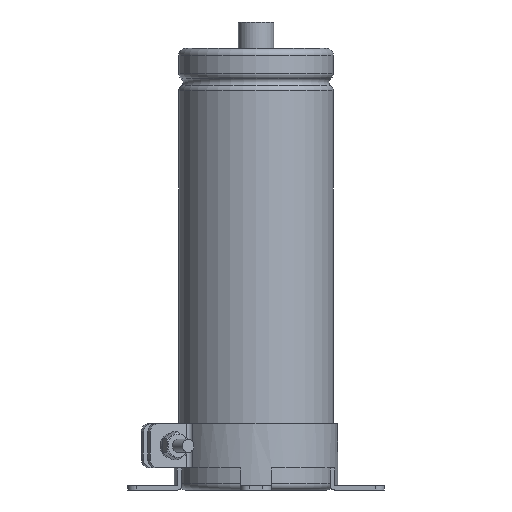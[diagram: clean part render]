
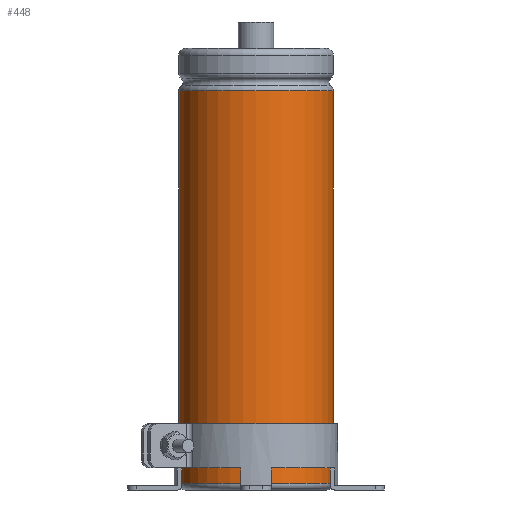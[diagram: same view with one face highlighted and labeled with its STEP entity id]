
A CAD part, front view. The second image highlights one B-rep face of the part: STEP entity #448.
In plain terms, the highlighted cylindrical face has radius 17.5 mm (diameter 35 mm), a partial arc.
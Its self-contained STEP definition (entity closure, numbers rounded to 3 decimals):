
#448=ADVANCED_FACE('',(#662),#578,.T.);
#578=CYLINDRICAL_SURFACE('',#3132,17.5);
#662=FACE_OUTER_BOUND('',#806,.T.);
#806=EDGE_LOOP('',(#1691,#1692,#1693,#1694));
#1059=LINE('',#4861,#1243);
#1060=LINE('',#4865,#1244);
#1243=VECTOR('',#3749,1.);
#1244=VECTOR('',#3752,1.);
#1691=ORIENTED_EDGE('',*,*,#2582,.T.);
#1692=ORIENTED_EDGE('',*,*,#2583,.T.);
#1693=ORIENTED_EDGE('',*,*,#2584,.F.);
#1694=ORIENTED_EDGE('',*,*,#2585,.F.);
#2240=VERTEX_POINT('',#4854);
#2242=VERTEX_POINT('',#4858);
#2243=VERTEX_POINT('',#4862);
#2244=VERTEX_POINT('',#4864);
#2582=EDGE_CURVE('',#2240,#2242,#2864,.T.);
#2583=EDGE_CURVE('',#2242,#2243,#1059,.T.);
#2584=EDGE_CURVE('',#2244,#2243,#2865,.T.);
#2585=EDGE_CURVE('',#2240,#2244,#1060,.T.);
#2864=CIRCLE('',#3129,17.5);
#2865=CIRCLE('',#3131,17.5);
#3129=AXIS2_PLACEMENT_3D('',#4859,#3745,#3746);
#3131=AXIS2_PLACEMENT_3D('',#4863,#3750,#3751);
#3132=AXIS2_PLACEMENT_3D('',#4866,#3753,#3754);
#3745=DIRECTION('',(0.,0.,-1.));
#3746=DIRECTION('',(0.,1.,0.));
#3749=DIRECTION('',(0.,0.,-1.));
#3750=DIRECTION('',(0.,0.,-1.));
#3751=DIRECTION('',(0.,1.,0.));
#3752=DIRECTION('',(0.,0.,-1.));
#3753=DIRECTION('',(0.,0.,-1.));
#3754=DIRECTION('',(0.,1.,0.));
#4854=CARTESIAN_POINT('',(3.937,17.051,90.4));
#4858=CARTESIAN_POINT('',(-3.937,17.051,90.4));
#4859=CARTESIAN_POINT('',(0.,0.,90.4));
#4861=CARTESIAN_POINT('',(-3.937,17.051,90.4));
#4862=CARTESIAN_POINT('',(-3.937,17.051,1.5));
#4863=CARTESIAN_POINT('',(0.,0.,1.5));
#4864=CARTESIAN_POINT('',(3.937,17.051,1.5));
#4865=CARTESIAN_POINT('',(3.937,17.051,90.4));
#4866=CARTESIAN_POINT('',(0.,0.,0.));
